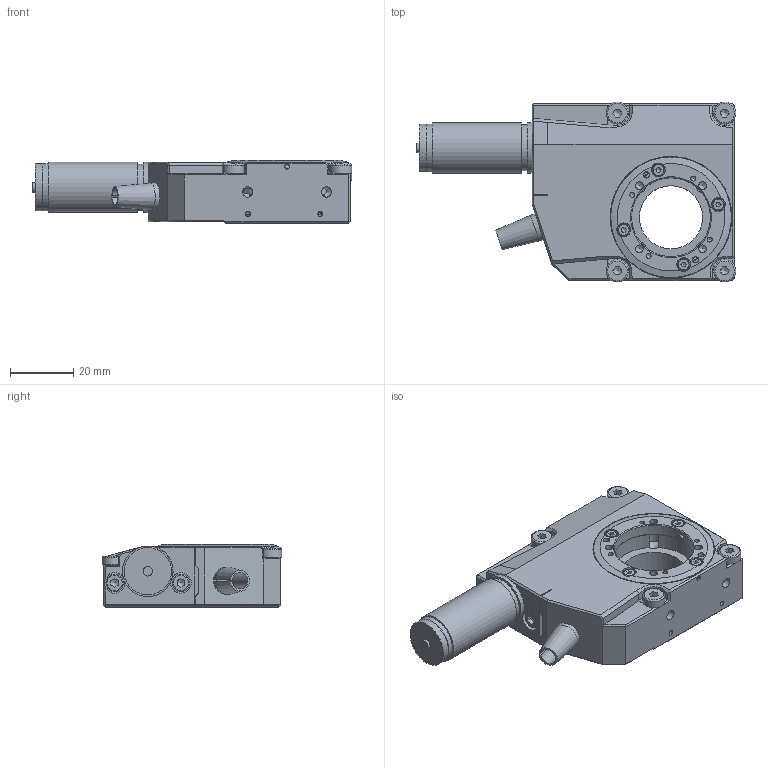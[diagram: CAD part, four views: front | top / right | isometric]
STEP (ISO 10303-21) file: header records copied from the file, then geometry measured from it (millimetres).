
FILE_DESCRIPTION((''),'2;1');
FILE_NAME('I:\Konstruktion\3216\321692001.stp','2008-11-07T13:49:19',('pstiefvater'),(''),'Autodesk Inventor 2008','Autodesk Inventor 2008','');
FILE_SCHEMA(('AUTOMOTIVE_DESIGN { 1 0 10303 214 1 1 1 1 }'));
Length unit declared in the file: millimetre
Products named in the file (2): 321692001; 321692001_1
Assembly tree (1 placements, depth 2):
  321692001
    321692001_1
Bounding box: 101.2 x 57 x 20 mm (x, y, z)
Volume: 49529.6 mm3; surface area: 31161.2 mm2
Topology: 1 solids, 1 shells, 854 faces, 2181 edges, 1407 vertices
Faces by surface type: plane 512, cylinder 226, cone 86, torus 20, bspline 10
Full cylindrical faces by diameter (mm): 0.481 x2, 1.5 x2, 1.567 x12, 1.754 x8, 1.8 x2, 2 x8, 2.013 x7, 2.2 x4, 2.4 x10, 2.459 x7, 2.8 x3, 3 x6, 3.242 x2, 3.4 x2, 3.8 x4, 4 x8, 4.2 x1, 4.4 x4, 4.5 x5, 4.7 x3, 5.5 x2, 6 x1, 6.5 x5, 7 x6, 7.8 x1, 9.8 x2, 10 x2, 10.7 x2, 11.7 x1, 12 x1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
Entity records: 25691 total; most frequent: CARTESIAN_POINT 6339, DIRECTION 4027, ORIENTED_EDGE 3652, EDGE_CURVE 1826, AXIS2_PLACEMENT_3D 1520, VERTEX_POINT 1284, EDGE_LOOP 1242, VECTOR 987
